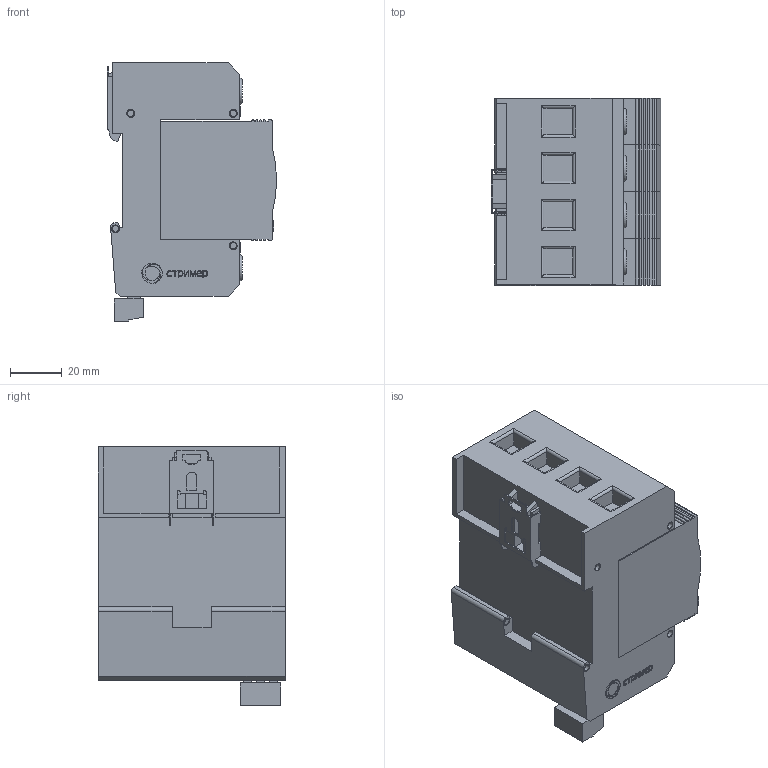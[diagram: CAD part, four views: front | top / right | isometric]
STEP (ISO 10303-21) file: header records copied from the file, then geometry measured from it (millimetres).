
FILE_DESCRIPTION(('TFLEX Exchange Step'),'2;1');
FILE_NAME('X2\041004400442\X0\.123_101.stp', '2022-08-30T14:10:08+03:00',('Ivan Berdigulov'),('Unknown organisation'),'TFLEX Exchange 2019.2','T-FLEX CAD','Unknown authorisation');
FILE_SCHEMA( ('AUTOMOTIVE_DESIGN { 1 0 10303 214 1 1 1 1 }') );
Length unit declared in the file: millimetre
Products named in the file (2): 0
Assembly tree (1 placements, depth 2):
  0
    0
Bounding box: 65.19 x 72.2 x 99.6 mm (x, y, z)
Volume: 337270.8 mm3; surface area: 69318.5 mm2
Topology: 56 solids, 56 shells, 819 faces, 2109 edges, 1430 vertices
Faces by surface type: plane 567, cylinder 136, bspline 105, torus 8, cone 3
Full cylindrical faces by diameter (mm): 1.6 x3, 2.5 x13, 3 x16, 4 x3
Entity records: 29445 total; most frequent: CARTESIAN_POINT 9915, ORIENTED_EDGE 4150, DIRECTION 3549, EDGE_CURVE 2075, VECTOR 1447, LINE 1447, VERTEX_POINT 1430, AXIS2_PLACEMENT_3D 1051
